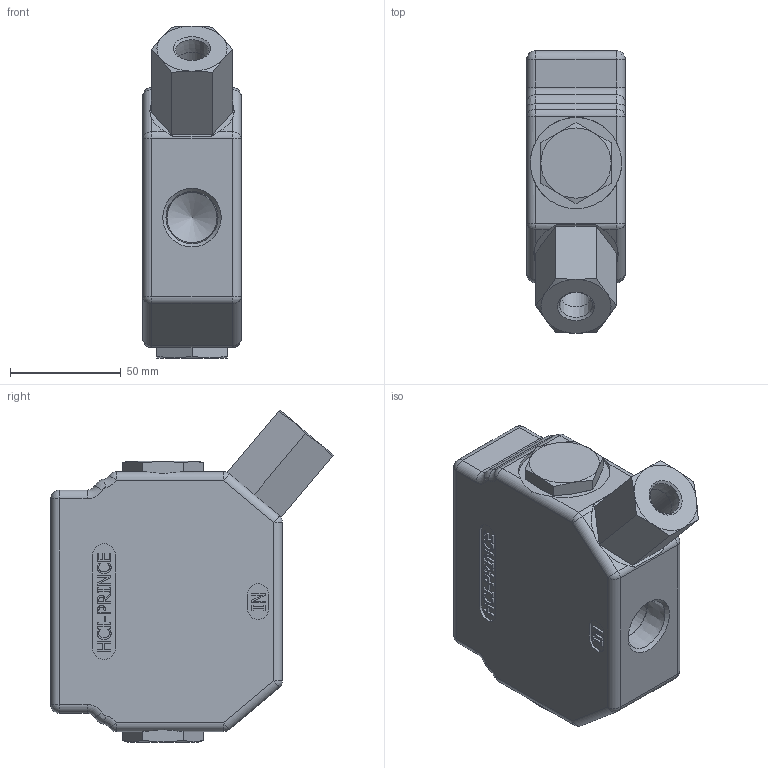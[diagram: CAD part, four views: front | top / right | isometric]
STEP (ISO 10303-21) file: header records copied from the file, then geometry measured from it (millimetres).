
FILE_DESCRIPTION((''),'2;1');
FILE_NAME('C:\Vault\Workspace\z_ShellModels\Misc_RD_RV\RD-405R-x_Shell.stp','2012-03-19T10:53:54',('PetersW'),(''),'Autodesk Inventor 2012','Autodesk Inventor 2012','');
FILE_SCHEMA(('AUTOMOTIVE_DESIGN { 1 0 10303 214 1 1 1 1 }'));
Length unit declared in the file: inch
Products named in the file (1): Part3
Bounding box: 44.45 x 127.75 x 150.06 mm (x, y, z)
Volume: 498551.3 mm3; surface area: 55666.7 mm2
Topology: 1 solids, 3 shells, 596 faces, 1552 edges, 1005 vertices
Faces by surface type: plane 353, bspline 127, cylinder 48, cone 44, sphere 16, torus 8
Full cylindrical faces by diameter (mm): 14.3 x1, 17.475 x1, 19.558 x2, 22.631 x2, 41.275 x2
Entity records: 19045 total; most frequent: CARTESIAN_POINT 4956, ORIENTED_EDGE 3018, DIRECTION 2300, EDGE_CURVE 1509, VECTOR 1026, LINE 1026, VERTEX_POINT 985, EDGE_LOOP 662
